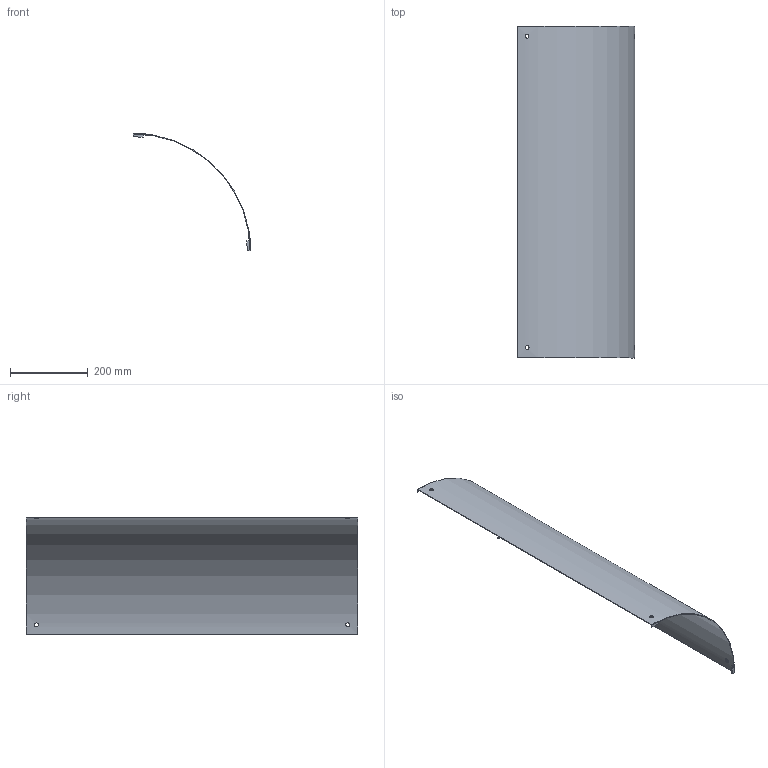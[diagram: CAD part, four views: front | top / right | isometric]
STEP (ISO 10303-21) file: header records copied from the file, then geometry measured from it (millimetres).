
FILE_DESCRIPTION(/* description */ ('','CAx-IF Rec.Pracs.---Representation and Presentation of Product Manufacturing Information (PMI)---4.0---2014-10-13'),/* implementation_level */ '2;1');
FILE_NAME(/* name */ 'Eurostrut_EORC800-90-300_Cover Outside Riser 90 for Cable Ladder ECL.step',/* time_stamp */ '2026-09-10T12:24:17+02:00',/* author */ (''),/* organization */ (''),/* preprocessor_version */ 'ST-DEVELOPER v20.1',/* originating_system */ 'Autodesk Revit 2027 27.2.0.39',/* authorisation */ '');
FILE_SCHEMA (('AP242_MANAGED_MODEL_BASED_3D_ENGINEERING_MIM_LF { 1 0 10303 442 2 1 4 }'));
Length unit declared in the file: millimetre
Products named in the file (3): TopLevelAssembly; Sweep; Joined Solid Geometry
Assembly tree (2 placements, depth 2):
  TopLevelAssembly
    Sweep
    Joined Solid Geometry
Bounding box: 301.5 x 853 x 301.5 mm (x, y, z)
Volume: 605112.7 mm3; surface area: 811372.3 mm2
Topology: 5 solids, 5 shells, 38 faces, 84 edges, 56 vertices
Faces by surface type: plane 20, cylinder 18
Entity records: 1356 total; most frequent: CARTESIAN_POINT 459, DIRECTION 174, ORIENTED_EDGE 168, EDGE_CURVE 84, AXIS2_PLACEMENT_3D 63, VERTEX_POINT 56, LINE 48, VECTOR 48
